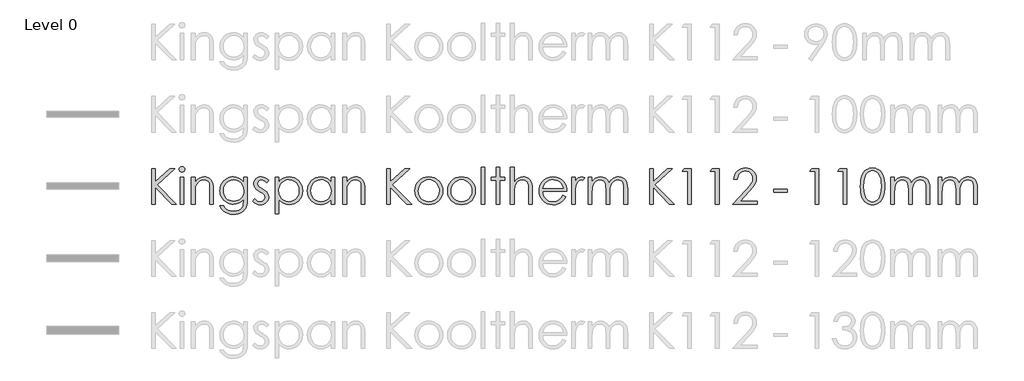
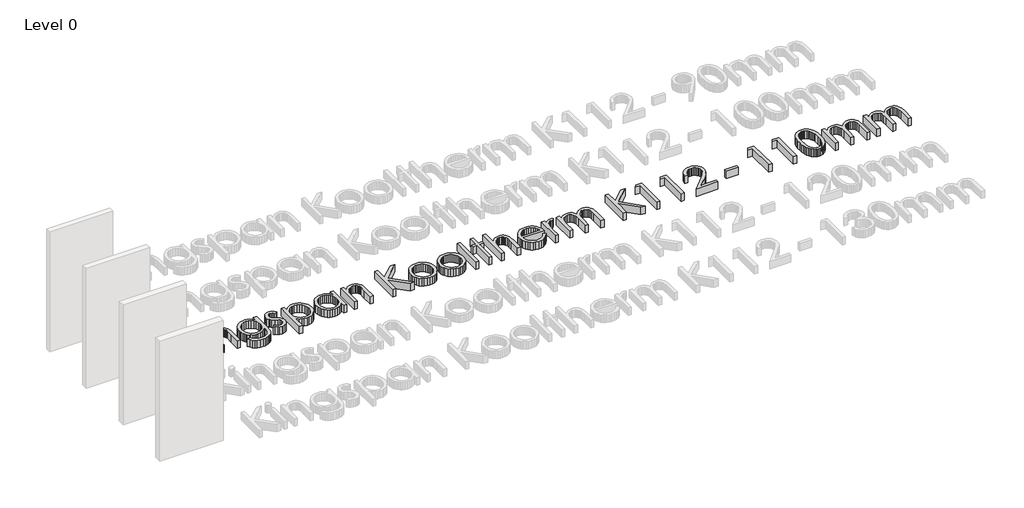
# One storey, part 5 of 14: 1 proxy.
"""IFC4 building model written with IfcOpenShell, lengths in millimetres."""

from ifc_helpers import new_model, si_unit, origin, origin_with_axes, place, context, project, spatial, polyline, outline, extrude, element, save

model = new_model("IFC4")

# Units and contexts
model_context = context("Model", 3, world=origin())
ifc_project = project(units=[si_unit("LENGTHUNIT", "METRE", prefix="MILLI")], contexts=[model_context])

# Site, building, storey
site = spatial("IfcSite", under=ifc_project)
building = spatial("IfcBuilding", under=site)
storey = spatial("IfcBuildingStorey", under=building, Name="Level 0", Elevation=0.0)

# Proxy
placement = place(None, origin())
element("IfcBuildingElementProxy", 1, Name="600mm KI_CenturyGothic", ObjectType="600mm KI_CenturyGothic", at=placement, inside=storey, context=model_context, shape_type="SweptSolid", body=[
    extrude(outline(polyline([(-3852.2663848, -4899.1034017), (-3792.944575, -4899.1034017), (-3792.944575, -5118.316027), (-3555.1938841, -4899.1034017), (-3471.6181051, -4899.1034017), (-3760.9664119, -5166.0515459), (-3441.9572002, -5492.3214999), (-3520.8984627, -5492.3214999), (-3792.944575, -5214.0960325), (-3792.944575, -5492.3214999), (-3852.2663848, -5492.3214999), (-3852.2663848, -4899.1034017)])), origin_with_axes(), (0.0, 0.0, 1.0), 150.0),
    extrude(outline(polyline([(-3348.1854852, -4869.4424967), (-3329.145347, -4872.7252792), (-3313.1176445, -4882.5736265), (-3302.226531, -4897.0178693), (-3298.5961598, -4914.088338), (-3302.226531, -4930.9270809), (-3313.1176445, -4945.2940817), (-3329.145347, -4955.142429), (-3348.1854852, -4958.4252115), (-3366.9938975, -4955.142429), (-3382.9443581, -4945.2940817), (-3393.8354717, -4930.9270809), (-3397.4658428, -4914.088338), (-3393.8354717, -4897.0178693), (-3382.9443581, -4882.5736265), (-3366.9938975, -4872.7252792), (-3348.1854852, -4869.4424967)])), origin_with_axes(), (0.0, 0.0, 1.0), 150.0),
    extrude(outline(polyline([(-3377.6919062, -5047.4079262), (-3318.3700964, -5047.4079262), (-3318.3700964, -5492.3214999), (-3377.6919062, -5492.3214999), (-3377.6919062, -5047.4079262)])), origin_with_axes(), (0.0, 0.0, 1.0), 150.0),
    extrude(outline(polyline([(-3189.8395084, -5047.4079262), (-3130.5176986, -5047.4079262), (-3130.5176986, -5126.5036726), (-3096.9946967, -5086.9944204), (-3060.0730495, -5059.303185), (-3019.7141359, -5042.9665147), (-2975.879335, -5037.5209579), (-2953.4357238, -5039.0995901), (-2932.2955704, -5043.8354865), (-2912.4588747, -5051.7286472), (-2893.9256368, -5062.7790723), (-2877.212412, -5076.5039994), (-2862.835756, -5092.4206667), (-2841.0921499, -5130.8292213), (-2833.6238199, -5155.2087086), (-2828.2892984, -5185.5551357), (-2824.0216812, -5264.1488095), (-2824.0216812, -5492.3214999), (-2883.343491, -5492.3214999), (-2883.343491, -5279.1337458), (-2883.343491, -5176.092998), (-2884.7290183, -5155.2956057), (-2889.8125035, -5137.2403023), (-2898.2849788, -5121.9270877), (-2910.1464442, -5109.355962), (-2924.7403432, -5099.5558909), (-2941.4101193, -5092.5558401), (-2980.977303, -5086.9557994), (-3005.3471351, -5089.1137461), (-3028.4038541, -5095.5875862), (-3050.1474602, -5106.3773197), (-3070.5779533, -5121.4829466), (-3088.6622225, -5139.7651482), (-3103.3671568, -5160.084606), (-3114.6927562, -5182.44132), (-3122.6390208, -5206.8352901), (-3128.5480292, -5253.9142525), (-3130.5176986, -5328.4141035), (-3130.5176986, -5492.3214999), (-3189.8395084, -5492.3214999), (-3189.8395084, -5047.4079262)])), origin_with_axes(), (0.0, 0.0, 1.0), 150.0),
    extrude(outline(polyline([(-2319.7862977, -5047.4079262), (-2260.4644879, -5047.4079262), (-2260.4644879, -5398.395301), (-2264.5196897, -5478.6496765), (-2269.588692, -5509.4499001), (-2276.6852953, -5534.0321474), (-2289.9371156, -5562.6454585), (-2307.2924139, -5587.7732271), (-2328.7511904, -5609.4154531), (-2354.3134448, -5627.5721366), (-2383.3226209, -5641.9343098), (-2415.122162, -5652.1930049), (-2449.7120682, -5658.348222), (-2487.0923395, -5660.3999611), (-2541.0458345, -5656.3833802), (-2589.206184, -5644.3336376), (-2630.260275, -5625.5059147), (-2662.8949946, -5601.1553932), (-2690.2000204, -5567.8061856), (-2715.2650299, -5521.9824048), (-2655.94322, -5521.9824048), (-2642.4355358, -5543.151524), (-2627.0933555, -5561.3951046), (-2609.9166791, -5576.7131468), (-2590.9055067, -5589.1056506), (-2569.7894914, -5598.6691682), (-2546.2982864, -5605.5002523), (-2492.1903075, -5610.9651195), (-2438.5071593, -5605.6354257), (-2415.083541, -5598.9733084), (-2393.93856, -5589.6463441), (-2359.6624492, -5565.6047903), (-2336.8567664, -5536.1176798), (-2329.3884364, -5517.4782342), (-2324.0539149, -5493.7697863), (-2319.7862977, -5431.1458835), (-2319.7862977, -5408.4367532), (-2354.757586, -5444.2190818), (-2396.6420279, -5470.6165148), (-2443.392712, -5486.8952536), (-2492.9627269, -5492.3214999), (-2522.4063889, -5490.4242447), (-2550.9521133, -5484.7324793), (-2578.5999001, -5475.2462036), (-2605.3497494, -5461.9654175), (-2630.1540674, -5445.4742634), (-2651.9652601, -5426.3568832), (-2670.7833277, -5404.6132772), (-2686.6082702, -5380.2434451), (-2699.1456025, -5353.9280817), (-2708.1008399, -5326.3478816), (-2713.4739824, -5297.5028447), (-2715.2650299, -5267.392971), (-2713.3967404, -5237.1044753), (-2707.7918722, -5207.8780563), (-2698.4504251, -5179.713714), (-2685.3723991, -5152.6114483), (-2668.9971079, -5127.4257483), (-2649.7638648, -5105.0111029), (-2627.67267, -5085.367512), (-2602.7235235, -5068.4949758), (-2575.9833294, -5054.943843), (-2548.5189922, -5045.2644624), (-2520.3305117, -5039.456834), (-2491.4178881, -5037.5209579), (-2444.5320306, -5042.4644421), (-2400.8903346, -5057.2948945), (-2359.6045177, -5083.8661218), (-2319.7862977, -5124.0319306), (-2319.7862977, -5047.4079262)]), holes=[polyline([(-2484.1571458, -5086.9557994), (-2529.0154023, -5092.9806707), (-2570.5908765, -5111.0552847), (-2606.2187212, -5139.7699758), (-2633.2340897, -5177.7150788), (-2650.2659375, -5221.9940208), (-2655.94322, -5269.7102292), (-2653.0080263, -5305.6229036), (-2644.2024452, -5338.2817613), (-2629.5264766, -5367.6868023), (-2608.9801206, -5393.8380266), (-2583.7606272, -5415.296803), (-2555.0652466, -5430.6245004), (-2522.8939786, -5439.8211189), (-2487.2468234, -5442.8866584), (-2451.3244937, -5439.845257), (-2419.1001219, -5430.7210528), (-2390.573708, -5415.5140459), (-2365.7452519, -5394.2242363), (-2345.6382095, -5367.9812872), (-2331.2760363, -5337.9148621), (-2322.6587323, -5304.024961), (-2319.7862977, -5266.3115838), (-2325.0773706, -5217.6105407), (-2340.9505892, -5174.3936754), (-2366.4983608, -5138.1672056), (-2400.8130926, -5110.4373492), (-2440.9982119, -5092.8261869), (-2484.1571458, -5086.9557994)])]), origin_with_axes(), (0.0, 0.0, 1.0), 150.0),
    extrude(outline(polyline([(-1904.5336289, -5098.6965743), (-1940.9918246, -5136.390641), (-1962.9575012, -5114.7628978), (-1984.6721416, -5099.3145098), (-2006.1357456, -5090.045477), (-2027.3483133, -5086.9557994), (-2052.181597, -5091.6289368), (-2073.2300256, -5105.6483489), (-2087.5970264, -5125.8857371), (-2092.3860267, -5149.212803), (-2088.4466878, -5170.7633042), (-2076.628671, -5191.2324183), (-2052.0657341, -5213.400855), (-2010.2006027, -5239.122421), (-1958.3326401, -5271.9888664), (-1939.8428507, -5287.8138088), (-1926.315856, -5303.2332311), (-1909.9791857, -5335.9065716), (-1904.5336289, -5372.4420092), (-1906.9474396, -5398.5884059), (-1914.1888714, -5422.6492701), (-1926.2579245, -5444.624602), (-1943.1545989, -5464.5144015), (-1963.6719892, -5481.0055557), (-1986.6031901, -5492.7849515), (-2011.9482016, -5499.852589), (-2039.7070237, -5502.2084682), (-2077.4397114, -5498.3270607), (-2113.3958344, -5486.6828383), (-2145.4512394, -5468.2027042), (-2171.4817731, -5443.8135617), (-2135.7959969, -5403.3387852), (-2114.0041146, -5424.9665283), (-2091.5749863, -5440.4149163), (-2068.5086121, -5449.6839491), (-2044.8049918, -5452.7736267), (-2013.637869, -5447.1349651), (-1987.4914724, -5430.2189802), (-1969.7644472, -5405.6560434), (-1963.8554388, -5377.0765256), (-1967.7561567, -5353.2860081), (-1979.4583106, -5332.2762005), (-2005.0253927, -5310.5712154), (-2050.2119275, -5283.7682622), (-2099.762632, -5253.1032121), (-2117.441381, -5237.9444814), (-2130.3890611, -5222.9016136), (-2146.3781427, -5190.7689666), (-2151.7078365, -5154.310771), (-2149.5305794, -5130.2643896), (-2142.9988078, -5108.3325063), (-2132.1125219, -5088.5151211), (-2116.8717217, -5070.812234), (-2098.309518, -5056.2473007), (-2077.4590218, -5045.8437769), (-2054.3202332, -5039.6016627), (-2028.8931521, -5037.5209579), (-1997.9481, -5041.3444339), (-1966.9064954, -5052.814862), (-1935.7683384, -5071.9322421), (-1904.5336289, -5098.6965743)])), origin_with_axes(), (0.0, 0.0, 1.0), 150.0),
    extrude(outline(polyline([(-1795.7769776, -5047.4079262), (-1736.4551678, -5047.4079262), (-1736.4551678, -5128.5119631), (-1700.9238754, -5088.2689124), (-1660.4490989, -5059.9211205), (-1614.9922173, -5043.1209986), (-1564.5146096, -5037.5209579), (-1520.0618732, -5041.7596094), (-1478.9305402, -5054.4755637), (-1441.1206107, -5075.668821), (-1406.6320845, -5105.3393811), (-1377.9077381, -5140.9768811), (-1357.3903478, -5180.070958), (-1345.0799137, -5222.6216116), (-1340.9764356, -5268.628842), (-1345.0412927, -5315.5291824), (-1357.235864, -5358.7508754), (-1377.5601494, -5398.293921), (-1406.014149, -5434.1583192), (-1440.2130179, -5463.9302594), (-1477.7719111, -5485.1959309), (-1518.6908288, -5497.9553339), (-1562.9697708, -5502.2084682), (-1612.6170277, -5496.743601), (-1658.0545988, -5480.3489992), (-1699.3211052, -5453.1019049), (-1736.4551678, -5415.07956), (-1736.4551678, -5650.5129928), (-1795.7769776, -5650.5129928), (-1795.7769776, -5047.4079262)]), holes=[polyline([(-1568.5311905, -5086.9557994), (-1602.5852307, -5090.2530647), (-1633.8392507, -5100.1448607), (-1662.2932503, -5116.6311872), (-1687.9472295, -5139.7120444), (-1709.1694525, -5167.6977647), (-1724.3281832, -5198.8986808), (-1733.4234216, -5233.3147926), (-1736.4551678, -5270.9461002), (-1731.048232, -5319.8016272), (-1714.8274246, -5363.4819442), (-1688.5265441, -5400.3263495), (-1652.8793888, -5428.6741414), (-1611.4390881, -5446.7487554), (-1567.7587711, -5452.7736267), (-1525.0632888, -5446.7101344), (-1485.0326535, -5428.5196576), (-1450.2544701, -5399.4187567), (-1423.3163435, -5360.6239924), (-1406.05277, -5315.9588407), (-1400.2982454, -5269.2467775), (-1405.9948385, -5222.3029886), (-1423.0846177, -5177.8695627), (-1449.8103289, -5139.5189395), (-1484.414718, -5110.8235589), (-1524.7157001, -5092.9227393), (-1568.5311905, -5086.9557994)])]), origin_with_axes(), (0.0, 0.0, 1.0), 150.0),
    extrude(outline(polyline([(-807.0801472, -5047.4079262), (-807.0801472, -5492.3214999), (-866.401957, -5492.3214999), (-866.401957, -5416.4699149), (-903.4780882, -5454.3184655), (-944.8797679, -5481.0441767), (-990.4525125, -5496.9173953), (-1040.0418379, -5502.2084682), (-1084.3159523, -5497.9553339), (-1125.2203871, -5485.1959309), (-1162.7551422, -5463.9302594), (-1196.9202178, -5434.1583192), (-1225.340424, -5398.293921), (-1245.6405713, -5358.7508754), (-1257.8206597, -5315.5291824), (-1261.8806892, -5268.628842), (-1257.7820388, -5222.6216116), (-1245.4860875, -5180.070958), (-1224.9928353, -5140.9768811), (-1196.3022822, -5105.3393811), (-1161.8475494, -5075.668821), (-1124.061758, -5054.4755637), (-1082.9449079, -5041.7596094), (-1038.4969991, -5037.5209579), (-987.7490446, -5043.1209986), (-942.0990581, -5059.9211205), (-921.2051134, -5072.6081091), (-901.6242816, -5088.2689124), (-866.401957, -5128.5119631), (-866.401957, -5047.4079262), (-807.0801472, -5047.4079262)]), holes=[polyline([(-1034.3259343, -5086.9557994), (-1078.1414247, -5092.9227393), (-1118.4424068, -5110.8235589), (-1153.0467959, -5139.5189395), (-1179.7725071, -5177.8695627), (-1196.8622863, -5222.3029886), (-1202.5588794, -5269.2467775), (-1196.8043548, -5315.9588407), (-1179.5407813, -5360.6239924), (-1152.6026548, -5399.4187567), (-1117.8244713, -5428.5196576), (-1077.6779731, -5446.7101344), (-1034.6349021, -5452.7736267), (-991.0125165, -5446.7487554), (-949.7460102, -5428.6741414), (-914.2726493, -5400.3263495), (-888.0297002, -5363.4819442), (-871.8088928, -5319.8016272), (-866.401957, -5270.9461002), (-869.4337032, -5233.3147926), (-878.5289416, -5198.8986808), (-893.6876723, -5167.6977647), (-914.9098953, -5139.7120444), (-940.5638746, -5116.6311872), (-969.0178742, -5100.1448607), (-1000.2718941, -5090.2530647), (-1034.3259343, -5086.9557994)])]), origin_with_axes(), (0.0, 0.0, 1.0), 150.0),
    extrude(outline(polyline([(-668.662591, -5047.4079262), (-609.3407811, -5047.4079262), (-609.3407811, -5126.5036726), (-575.8177792, -5086.9944204), (-538.896132, -5059.303185), (-498.5372184, -5042.9665147), (-454.7024175, -5037.5209579), (-432.2588064, -5039.0995901), (-411.1186529, -5043.8354865), (-391.2819572, -5051.7286472), (-372.7487193, -5062.7790723), (-356.0354946, -5076.5039994), (-341.6588385, -5092.4206667), (-319.9152324, -5130.8292213), (-312.4469024, -5155.2087086), (-307.1123809, -5185.5551357), (-302.8447637, -5264.1488095), (-302.8447637, -5492.3214999), (-362.1665735, -5492.3214999), (-362.1665735, -5279.1337458), (-362.1665735, -5176.092998), (-363.5521008, -5155.2956057), (-368.635586, -5137.2403023), (-377.1080613, -5121.9270877), (-388.9695267, -5109.355962), (-403.5634257, -5099.5558909), (-420.2332018, -5092.5558401), (-459.8003855, -5086.9557994), (-484.1702176, -5089.1137461), (-507.2269366, -5095.5875862), (-528.9705427, -5106.3773197), (-549.4010358, -5121.4829466), (-567.485305, -5139.7651482), (-582.1902393, -5160.084606), (-593.5158387, -5182.44132), (-601.4621033, -5206.8352901), (-607.3711117, -5253.9142525), (-609.3407811, -5328.4141035), (-609.3407811, -5492.3214999), (-668.662591, -5492.3214999), (-668.662591, -5047.4079262)])), origin_with_axes(), (0.0, 0.0, 1.0), 150.0),
    extrude(outline(polyline([(62.9730635, -4899.1034017), (122.2948734, -4899.1034017), (122.2948734, -5118.316027), (360.0455643, -4899.1034017), (443.6213432, -4899.1034017), (154.2730365, -5166.0515459), (473.2822481, -5492.3214999), (394.3409856, -5492.3214999), (122.2948734, -5214.0960325), (122.2948734, -5492.3214999), (62.9730635, -5492.3214999), (62.9730635, -4899.1034017)])), origin_with_axes(), (0.0, 0.0, 1.0), 150.0),
    extrude(outline(polyline([(760.1588128, -5037.5209579), (809.4681362, -5042.1458191), (854.3553585, -5056.0204025), (894.8204798, -5079.1447083), (930.8635, -5111.5187363), (957.7630055, -5146.7507161), (976.9769381, -5185.091684), (988.5052976, -5226.54164), (992.3480841, -5271.1005841), (988.283227, -5315.9153921), (976.0886558, -5357.8239721), (955.7643703, -5396.8263241), (927.3103707, -5432.9224481), (892.4742558, -5463.2350819), (853.0036246, -5484.8869632), (808.8984769, -5497.8780919), (760.1588128, -5502.2084682), (711.2839754, -5497.8780919), (667.0822753, -5484.8869632), (627.5537126, -5463.2350819), (592.6982872, -5432.9224481), (564.2442876, -5396.8263241), (543.9200022, -5357.8239721), (531.7254309, -5315.9153921), (527.6605738, -5271.1005841), (531.5033603, -5226.7347449), (543.0317198, -5185.4006518), (562.2456524, -5147.0983049), (589.145158, -5111.8277041), (625.2074886, -5079.3185026), (665.7305413, -5056.0976445), (710.7143161, -5042.1651295), (760.1588128, -5037.5209579)]), holes=[polyline([(760.004329, -5086.9557994), (725.7282181, -5090.3303067), (693.9624704, -5100.4538284), (664.7070856, -5117.3263647), (637.962064, -5140.9479154), (615.6584538, -5169.3584664), (599.7273037, -5200.5980035), (590.1686137, -5234.6665266), (586.9823836, -5271.5640357), (592.7948396, -5319.2995546), (610.2322075, -5363.6364281), (637.5758543, -5401.4270471), (673.1071466, -5429.5238028), (714.6439998, -5446.9611707), (760.004329, -5452.7736267), (805.3646581, -5446.9611707), (846.9015113, -5429.5238028), (882.4328037, -5401.4270471), (909.7764504, -5363.6364281), (927.2138183, -5319.2995546), (933.0262743, -5271.5640357), (929.8255614, -5234.6665266), (920.2234227, -5200.5980035), (904.2198583, -5169.3584664), (881.8148681, -5140.9479154), (854.9974321, -5117.3263647), (825.7565303, -5100.4538284), (794.0921625, -5090.3303067), (760.004329, -5086.9557994)])]), origin_with_axes(), (0.0, 0.0, 1.0), 150.0),
    extrude(outline(polyline([(1303.9420695, -5037.5209579), (1353.2513929, -5042.1458191), (1398.1386152, -5056.0204025), (1438.6037365, -5079.1447083), (1474.6467567, -5111.5187363), (1501.5462622, -5146.7507161), (1520.7601948, -5185.091684), (1532.2885543, -5226.54164), (1536.1313408, -5271.1005841), (1532.0664837, -5315.9153921), (1519.8719125, -5357.8239721), (1499.547627, -5396.8263241), (1471.0936274, -5432.9224481), (1436.2575126, -5463.2350819), (1396.7868813, -5484.8869632), (1352.6817336, -5497.8780919), (1303.9420695, -5502.2084682), (1255.0672321, -5497.8780919), (1210.865532, -5484.8869632), (1171.3369693, -5463.2350819), (1136.4815439, -5432.9224481), (1108.0275443, -5396.8263241), (1087.7032589, -5357.8239721), (1075.5086876, -5315.9153921), (1071.4438305, -5271.1005841), (1075.286617, -5226.7347449), (1086.8149766, -5185.4006518), (1106.0289091, -5147.0983049), (1132.9284147, -5111.8277041), (1168.9907453, -5079.3185026), (1209.5137981, -5056.0976445), (1254.4975728, -5042.1651295), (1303.9420695, -5037.5209579)]), holes=[polyline([(1303.7875857, -5086.9557994), (1269.5114748, -5090.3303067), (1237.7457271, -5100.4538284), (1208.4903423, -5117.3263647), (1181.7453207, -5140.9479154), (1159.4417105, -5169.3584664), (1143.5105604, -5200.5980035), (1133.9518704, -5234.6665266), (1130.7656404, -5271.5640357), (1136.5780963, -5319.2995546), (1154.0154643, -5363.6364281), (1181.359111, -5401.4270471), (1216.8904033, -5429.5238028), (1258.4272565, -5446.9611707), (1303.7875857, -5452.7736267), (1349.1479149, -5446.9611707), (1390.684768, -5429.5238028), (1426.2160604, -5401.4270471), (1453.5597071, -5363.6364281), (1470.997075, -5319.2995546), (1476.809531, -5271.5640357), (1473.6088181, -5234.6665266), (1464.0066795, -5200.5980035), (1448.003115, -5169.3584664), (1425.5981249, -5140.9479154), (1398.7806889, -5117.3263647), (1369.539787, -5100.4538284), (1337.8754193, -5090.3303067), (1303.7875857, -5086.9557994)])]), origin_with_axes(), (0.0, 0.0, 1.0), 150.0),
    extrude(outline(polyline([(1635.0010238, -4879.3294651), (1694.3228337, -4879.3294651), (1694.3228337, -5492.3214999), (1635.0010238, -5492.3214999), (1635.0010238, -4879.3294651)])), origin_with_axes(), (0.0, 0.0, 1.0), 150.0),
    extrude(outline(polyline([(1882.1752314, -4879.3294651), (1941.4970413, -4879.3294651), (1941.4970413, -5047.4079262), (2020.5927877, -5047.4079262), (2020.5927877, -5096.8427677), (1941.4970413, -5096.8427677), (1941.4970413, -5492.3214999), (1882.1752314, -5492.3214999), (1882.1752314, -5096.8427677), (1803.079485, -5096.8427677), (1803.079485, -5047.4079262), (1882.1752314, -5047.4079262), (1882.1752314, -4879.3294651)])), origin_with_axes(), (0.0, 0.0, 1.0), 150.0),
    extrude(outline(polyline([(2119.4624707, -4879.3294651), (2178.7842806, -4879.3294651), (2178.7842806, -5128.0485114), (2212.5583188, -5088.3461544), (2249.6151394, -5060.0756044), (2289.9161216, -5043.1596195), (2333.4226442, -5037.5209579), (2355.8662553, -5039.0995901), (2377.0064088, -5043.8354865), (2396.8431044, -5051.7286472), (2415.3763424, -5062.7790723), (2432.0895671, -5076.4895166), (2446.4662232, -5092.3627352), (2468.2098293, -5130.5974955), (2475.6781593, -5154.9045684), (2481.0126808, -5185.2654784), (2485.280298, -5264.1488095), (2485.280298, -5492.3214999), (2425.9584882, -5492.3214999), (2425.9584882, -5279.1337458), (2424.5681332, -5214.752589), (2420.3970685, -5176.092998), (2406.879729, -5137.2403023), (2397.1665551, -5121.9270877), (2385.4837117, -5109.355962), (2371.840854, -5099.5558909), (2356.2476374, -5092.5558401), (2319.2101273, -5086.9557994), (2296.3416854, -5089.1137461), (2274.6994594, -5095.5875862), (2254.2834492, -5106.3773197), (2235.0936547, -5121.4829466), (2218.1052556, -5139.7651482), (2204.2934312, -5160.084606), (2193.6581816, -5182.44132), (2186.1995068, -5206.8352901), (2180.6380871, -5253.6825267), (2178.7842806, -5328.4141035), (2178.7842806, -5492.3214999), (2119.4624707, -5492.3214999), (2119.4624707, -4879.3294651)])), origin_with_axes(), (0.0, 0.0, 1.0), 150.0),
    extrude(outline(polyline([(2991.0605203, -5344.0169753), (3038.950523, -5369.1978477), (3013.3255094, -5411.0822896), (2984.0315038, -5444.0452875), (2950.952643, -5469.1296074), (2913.9730643, -5487.3780157), (2872.4941426, -5498.5008551), (2825.9172528, -5502.2084682), (2774.4258447, -5497.7767119), (2728.8627554, -5484.481443), (2689.227985, -5462.3226615), (2655.5215335, -5431.3003674), (2628.6220279, -5394.6973431), (2609.4080954, -5355.7963712), (2597.8797358, -5314.5974515), (2594.0369493, -5271.1005841), (2597.3197318, -5230.2202874), (2607.1680791, -5191.618628), (2623.5819913, -5155.2956057), (2646.5614684, -5121.2512207), (2682.7493173, -5084.6192308), (2724.5758277, -5058.4535236), (2772.0409998, -5042.7540993), (2825.1448334, -5037.5209579), (2879.7935059, -5042.8892727), (2928.6490329, -5058.9942172), (2971.7114143, -5085.8357913), (3008.9806503, -5123.4139951), (3030.4539096, -5155.585263), (3045.9022976, -5191.541386), (3055.3258143, -5231.2823641), (3058.7244596, -5274.8081972), (2653.3587591, -5274.8081972), (2657.095338, -5312.0629503), (2666.6057518, -5345.8128504), (2681.8900007, -5376.0578975), (2702.9480845, -5402.7980916), (2728.3124066, -5424.6623882), (2756.5153699, -5440.2797429), (2787.5569744, -5449.6501557), (2821.4372203, -5452.7736267), (2854.9602222, -5449.761191), (2887.5563208, -5440.7238841), (2917.2944677, -5426.6851615), (2942.2436143, -5408.668479), (2965.725164, -5382.5027719), (2991.0605203, -5344.0169753)]), holes=[polyline([(2999.4026498, -5225.3733557), (2984.9777175, -5182.8516678), (2965.1844704, -5149.8307385), (2939.0766947, -5124.3022774), (2905.7081767, -5104.257994), (2867.7630738, -5091.2813481), (2827.9255433, -5086.9557994), (2795.503239, -5089.6689226), (2765.4368139, -5097.808292), (2737.726268, -5111.3739077), (2712.3716012, -5130.3657696), (2695.8321708, -5148.179692), (2681.4362043, -5169.9522638), (2669.1837016, -5195.683485), (2659.0746627, -5225.3733557), (2999.4026498, -5225.3733557)])]), origin_with_axes(), (0.0, 0.0, 1.0), 150.0),
    extrude(outline(polyline([(3137.820206, -5047.4079262), (3197.1420159, -5047.4079262), (3197.1420159, -5111.8277041), (3222.6897875, -5078.7874643), (3249.589293, -5055.6728138), (3277.7632906, -5042.0589219), (3307.1345382, -5037.5209579), (3330.4616041, -5041.305813), (3355.3335087, -5052.6603781), (3325.8270877, -5094.6799934), (3297.2475699, -5086.9557994), (3270.8308265, -5092.9034288), (3245.3409863, -5110.7463169), (3223.2884125, -5141.1023993), (3207.183468, -5184.5896114), (3199.6523789, -5242.7141712), (3197.1420159, -5340.1548783), (3197.1420159, -5492.3214999), (3137.820206, -5492.3214999), (3137.820206, -5047.4079262)])), origin_with_axes(), (0.0, 0.0, 1.0), 150.0),
    extrude(outline(polyline([(3414.6553185, -5047.4079262), (3473.9771284, -5047.4079262), (3473.9771284, -5123.5684789), (3503.5607913, -5087.0716623), (3533.9168737, -5061.9294109), (3577.3268439, -5043.6230712), (3622.8995884, -5037.5209579), (3653.7384329, -5040.668567), (3682.9165757, -5050.1113941), (3708.6767627, -5064.7873627), (3729.2617397, -5083.634396), (3746.0425511, -5109.0663047), (3760.3902414, -5143.4968994), (3775.16759, -5119.0981017), (3791.6925376, -5097.808292), (3809.965084, -5079.6274704), (3829.9852293, -5064.5556369), (3851.2798666, -5052.7279648), (3873.375889, -5044.2796277), (3896.2732965, -5039.2106253), (3919.9720892, -5037.5209579), (3962.3006723, -5043.3334139), (3981.4952943, -5050.5989839), (3999.3768034, -5060.7707818), (4015.4914031, -5073.53984), (4029.385297, -5088.5971907), (4050.5109676, -5125.5767694), (4057.8103309, -5148.9521114), (4063.0241619, -5177.5219739), (4067.1952266, -5250.2452603), (4067.1952266, -5492.3214999), (4007.8734168, -5492.3214999), (4007.8734168, -5246.6921311), (4005.4209852, -5185.5744462), (3998.0636904, -5147.1272706), (3984.7587663, -5122.6608861), (3964.4634466, -5103.4855746), (3938.3942919, -5091.0882432), (3907.7678627, -5086.9557994), (3888.1194443, -5088.5054659), (3869.3399976, -5093.1544651), (3834.3880198, -5111.7504621), (3805.6540182, -5140.6968791), (3785.8800816, -5177.9468046), (3779.1889985, -5202.1042213), (3774.4096535, -5233.1747916), (3770.5861775, -5316.0553931), (3770.5861775, -5492.3214999), (3711.2643677, -5492.3214999), (3711.2643677, -5261.9860352), (3708.850557, -5193.530366), (3701.6091252, -5151.2983353), (3688.3621325, -5125.0553863), (3667.9316394, -5104.5669617), (3641.6114484, -5091.35859), (3610.6953619, -5086.9557994), (3573.7544042, -5092.9999812), (3539.2465676, -5111.1325266), (3510.2808401, -5139.499629), (3489.9662099, -5176.2474819), (3477.9743988, -5228.0768236), (3473.9771284, -5301.6883923), (3473.9771284, -5492.3214999), (3414.6553185, -5492.3214999), (3414.6553185, -5047.4079262)])), origin_with_axes(), (0.0, 0.0, 1.0), 150.0),
    extrude(outline(polyline([(4433.0130538, -4899.1034017), (4492.3348637, -4899.1034017), (4492.3348637, -5118.316027), (4730.0855546, -4899.1034017), (4813.6613335, -4899.1034017), (4524.3130268, -5166.0515459), (4843.3222385, -5492.3214999), (4764.3809759, -5492.3214999), (4492.3348637, -5214.0960325), (4492.3348637, -5492.3214999), (4433.0130538, -5492.3214999), (4433.0130538, -4899.1034017)])), origin_with_axes(), (0.0, 0.0, 1.0), 150.0),
    extrude(outline(polyline([(5010.6282802, -4899.1034017), (5125.1008351, -4899.1034017), (5125.1008351, -5492.3214999), (5065.7790253, -5492.3214999), (5065.7790253, -4948.5382432), (4976.7963106, -4948.5382432), (5010.6282802, -4899.1034017)])), origin_with_axes(), (0.0, 0.0, 1.0), 150.0),
    extrude(outline(polyline([(5475.3157905, -4899.1034017), (5589.7883454, -4899.1034017), (5589.7883454, -5492.3214999), (5530.4665356, -5492.3214999), (5530.4665356, -4948.5382432), (5441.4838208, -4948.5382432), (5475.3157905, -4899.1034017)])), origin_with_axes(), (0.0, 0.0, 1.0), 150.0),
    extrude(outline(polyline([(5896.2843628, -5077.0688311), (5836.962553, -5077.0688311), (5841.4474131, -5037.8106152), (5852.5847353, -5002.2213914), (5870.3745196, -4970.3011597), (5894.816766, -4942.0499202), (5924.2121517, -4918.9352697), (5956.8613542, -4902.4248051), (5992.7643733, -4892.5185263), (6031.9212092, -4889.2164334), (6070.3925229, -4892.5136987), (6105.0113948, -4902.4054946), (6135.777825, -4918.8918211), (6162.6918135, -4941.9726783), (6184.5561101, -4969.533568), (6200.1734648, -4999.459992), (6209.5438776, -5031.7519505), (6212.6673485, -5066.4094434), (6206.5845458, -5115.2070389), (6188.3361375, -5160.8763359), (6152.5538088, -5212.763609), (6093.869245, -5280.215133), (5941.084688, -5442.8866584), (6222.5543169, -5442.8866584), (6222.5543169, -5492.3214999), (5817.1886164, -5492.3214999), (6043.1985325, -5251.6356152), (6099.9327373, -5186.1151397), (6132.6446988, -5140.0210121), (6148.1703288, -5102.6552237), (6153.3455387, -5063.3197658), (6151.0958672, -5038.7133804), (6144.3468527, -5015.8739043), (6133.0984952, -4994.8013375), (6117.3507947, -4975.4956802), (6098.3396223, -4959.3762529), (6077.3008489, -4947.8623762), (6054.2344746, -4940.9540502), (6029.1404994, -4938.6512749), (6002.8058255, -4940.9250845), (5978.7980651, -4947.7465133), (5957.1172181, -4959.1155613), (5937.7632845, -4975.0322286), (5921.5279943, -4995.0523738), (5909.2030773, -5018.731856), (5900.7885334, -5046.0706751), (5896.2843628, -5077.0688311)])), origin_with_axes(), (0.0, 0.0, 1.0), 150.0),
    extrude(outline(polyline([(6499.3894294, -5245.1472923), (6726.7897004, -5245.1472923), (6726.7897004, -5294.5821338), (6499.3894294, -5294.5821338), (6499.3894294, -5245.1472923)])), origin_with_axes(), (0.0, 0.0, 1.0), 150.0),
    extrude(outline(polyline([(7136.3264656, -4899.1034017), (7250.7990205, -4899.1034017), (7250.7990205, -5492.3214999), (7191.4772106, -5492.3214999), (7191.4772106, -4948.5382432), (7102.4944959, -4948.5382432), (7136.3264656, -4899.1034017)])), origin_with_axes(), (0.0, 0.0, 1.0), 150.0),
    extrude(outline(polyline([(7601.0139758, -4899.1034017), (7715.4865307, -4899.1034017), (7715.4865307, -5492.3214999), (7656.1647209, -5492.3214999), (7656.1647209, -4948.5382432), (7567.1820062, -4948.5382432), (7601.0139758, -4899.1034017)])), origin_with_axes(), (0.0, 0.0, 1.0), 150.0),
    extrude(outline(polyline([(7942.8868017, -5195.8669347), (7944.4654339, -5141.4355052), (7949.2013303, -5093.5406748), (7957.094491, -5052.1824436), (7968.1449161, -5017.3608116), (7982.0726034, -4987.7192172), (7998.5975509, -4961.9010988), (8017.7197586, -4939.9064564), (8039.4392266, -4921.73529), (8063.1331916, -4907.5082902), (8088.1788906, -4897.3461475), (8114.5763236, -4891.2488619), (8142.3254905, -4889.2164334), (8170.5284538, -4891.2633448), (8197.3603726, -4897.404079), (8222.8212471, -4907.638636), (8246.9110771, -4921.9670159), (8269.0939967, -4940.3843909), (8288.8341399, -4962.8859335), (8306.1315069, -4989.4716437), (8320.9860974, -5020.1415214), (8332.9151495, -5055.6583309), (8341.435901, -5096.7848363), (8346.5483519, -5143.5210375), (8348.2525022, -5195.8669347), (8346.57249, -5248.0535203), (8341.5324534, -5294.6207548), (8333.1323925, -5335.5686382), (8321.3723071, -5370.8971704), (8306.6625452, -5401.4222195), (8289.4134545, -5427.9596535), (8269.625035, -5450.5094723), (8247.2972868, -5469.071676), (8223.03849, -5483.5690226), (8197.4569251, -5493.9242701), (8170.5525919, -5500.1374187), (8142.3254905, -5502.2084682), (8114.6004617, -5500.2001778), (8088.2754431, -5494.1753064), (8063.3504346, -5484.1338543), (8039.8254363, -5470.0758212), (8018.2507969, -5452.0398282), (7999.1768654, -5430.0644964), (7982.6036417, -5404.1498255), (7968.5311258, -5374.2958158), (7957.311734, -5339.2762513), (7949.2978827, -5297.8649163), (7944.489572, -5250.0618107), (7942.8868017, -5195.8669347)]), holes=[polyline([(8002.2086116, -5195.7124508), (8006.5920916, -5284.038609), (8012.0714418, -5319.0195525), (8019.7425319, -5347.8790723), (8029.5570859, -5372.1185586), (8041.4668275, -5393.2394015), (8055.4717567, -5411.2416011), (8071.5718736, -5426.1251574), (8106.8714401, -5446.1115094), (8125.2743323, -5451.1080973), (8144.179297, -5452.7736267), (8163.171159, -5451.1418907), (8181.525775, -5446.2466828), (8216.3232689, -5426.665851), (8232.0806246, -5411.9898824), (8245.8296899, -5394.0697524), (8257.5704648, -5372.9054608), (8267.3029492, -5348.4970078), (8276.7650868, -5315.1381451), (8283.5237566, -5278.5544313), (8288.9306924, -5195.7124508), (8284.1030711, -5114.1063413), (8278.0685446, -5079.4150551), (8269.6202074, -5048.7982811), (8259.0380616, -5022.135329), (8246.6021093, -4999.3055082), (8232.3123504, -4980.3088186), (8216.168785, -4965.1452603), (8181.1009443, -4945.2747712), (8162.8718465, -4940.307149), (8144.179297, -4938.6512749), (8125.163297, -4940.307149), (8106.7362667, -4945.2747712), (8071.6491155, -4965.1452603), (8055.7034825, -4979.9564022), (8041.7757953, -4997.8958428), (8029.8660536, -5018.9635819), (8019.9742577, -5043.1596195), (8012.2017875, -5072.0143117), (8006.6500231, -5107.0580143), (8002.2086116, -5195.7124508)])]), origin_with_axes(), (0.0, 0.0, 1.0), 150.0),
    extrude(outline(polyline([(8447.1221852, -5047.4079262), (8506.4439951, -5047.4079262), (8506.4439951, -5123.5684789), (8536.027658, -5087.0716623), (8566.3837404, -5061.9294109), (8609.7937106, -5043.6230712), (8655.3664551, -5037.5209579), (8686.2052996, -5040.668567), (8715.3834424, -5050.1113941), (8741.1436294, -5064.7873627), (8761.7286063, -5083.634396), (8778.5094178, -5109.0663047), (8792.8571081, -5143.4968994), (8807.6344567, -5119.0981017), (8824.1594042, -5097.808292), (8842.4319506, -5079.6274704), (8862.4520959, -5064.5556369), (8883.7467332, -5052.7279648), (8905.8427557, -5044.2796277), (8928.7401632, -5039.2106253), (8952.4389559, -5037.5209579), (8994.7675389, -5043.3334139), (9013.962161, -5050.5989839), (9031.8436701, -5060.7707818), (9047.9582698, -5073.53984), (9061.8521637, -5088.5971907), (9082.9778343, -5125.5767694), (9090.2771976, -5148.9521114), (9095.4910285, -5177.5219739), (9099.6620933, -5250.2452603), (9099.6620933, -5492.3214999), (9040.3402835, -5492.3214999), (9040.3402835, -5246.6921311), (9037.8878519, -5185.5744462), (9030.5305571, -5147.1272706), (9017.225633, -5122.6608861), (8996.9303133, -5103.4855746), (8970.8611585, -5091.0882432), (8940.2347294, -5086.9557994), (8920.5863109, -5088.5054659), (8901.8068643, -5093.1544651), (8866.8548865, -5111.7504621), (8838.1208849, -5140.6968791), (8818.3469483, -5177.9468046), (8811.6558652, -5202.1042213), (8806.8765202, -5233.1747916), (8803.0530442, -5316.0553931), (8803.0530442, -5492.3214999), (8743.7312343, -5492.3214999), (8743.7312343, -5261.9860352), (8741.3174237, -5193.530366), (8734.0759919, -5151.2983353), (8720.8289992, -5125.0553863), (8700.3985061, -5104.5669617), (8674.0783151, -5091.35859), (8643.1622286, -5086.9557994), (8606.2212709, -5092.9999812), (8571.7134342, -5111.1325266), (8542.7477068, -5139.499629), (8522.4330766, -5176.2474819), (8510.4412654, -5228.0768236), (8506.4439951, -5301.6883923), (8506.4439951, -5492.3214999), (8447.1221852, -5492.3214999), (8447.1221852, -5047.4079262)])), origin_with_axes(), (0.0, 0.0, 1.0), 150.0),
    extrude(outline(polyline([(9238.0796495, -5047.4079262), (9297.4014594, -5047.4079262), (9297.4014594, -5123.5684789), (9326.9851223, -5087.0716623), (9357.3412047, -5061.9294109), (9400.7511749, -5043.6230712), (9446.3239194, -5037.5209579), (9477.1627639, -5040.668567), (9506.3409067, -5050.1113941), (9532.1010937, -5064.7873627), (9552.6860706, -5083.634396), (9569.4668821, -5109.0663047), (9583.8145724, -5143.4968994), (9598.591921, -5119.0981017), (9615.1168685, -5097.808292), (9633.389415, -5079.6274704), (9653.4095602, -5064.5556369), (9674.7041975, -5052.7279648), (9696.80022, -5044.2796277), (9719.6976275, -5039.2106253), (9743.3964202, -5037.5209579), (9785.7250032, -5043.3334139), (9804.9196253, -5050.5989839), (9822.8011344, -5060.7707818), (9838.9157341, -5073.53984), (9852.809628, -5088.5971907), (9873.9352986, -5125.5767694), (9881.2346619, -5148.9521114), (9886.4484928, -5177.5219739), (9890.6195576, -5250.2452603), (9890.6195576, -5492.3214999), (9831.2977478, -5492.3214999), (9831.2977478, -5246.6921311), (9828.8453162, -5185.5744462), (9821.4880214, -5147.1272706), (9808.1830973, -5122.6608861), (9787.8877776, -5103.4855746), (9761.8186229, -5091.0882432), (9731.1921937, -5086.9557994), (9711.5437752, -5088.5054659), (9692.7643286, -5093.1544651), (9657.8123508, -5111.7504621), (9629.0783492, -5140.6968791), (9609.3044126, -5177.9468046), (9602.6133295, -5202.1042213), (9597.8339845, -5233.1747916), (9594.0105085, -5316.0553931), (9594.0105085, -5492.3214999), (9534.6886987, -5492.3214999), (9534.6886987, -5261.9860352), (9532.274888, -5193.530366), (9525.0334562, -5151.2983353), (9511.7864635, -5125.0553863), (9491.3559704, -5104.5669617), (9465.0357794, -5091.35859), (9434.1196929, -5086.9557994), (9397.1787352, -5092.9999812), (9362.6708986, -5111.1325266), (9333.7051711, -5139.499629), (9313.3905409, -5176.2474819), (9301.3987298, -5228.0768236), (9297.4014594, -5301.6883923), (9297.4014594, -5492.3214999), (9238.0796495, -5492.3214999), (9238.0796495, -5047.4079262)])), origin_with_axes(), (0.0, 0.0, 1.0), 150.0),
])

save(model, "model.ifc")
